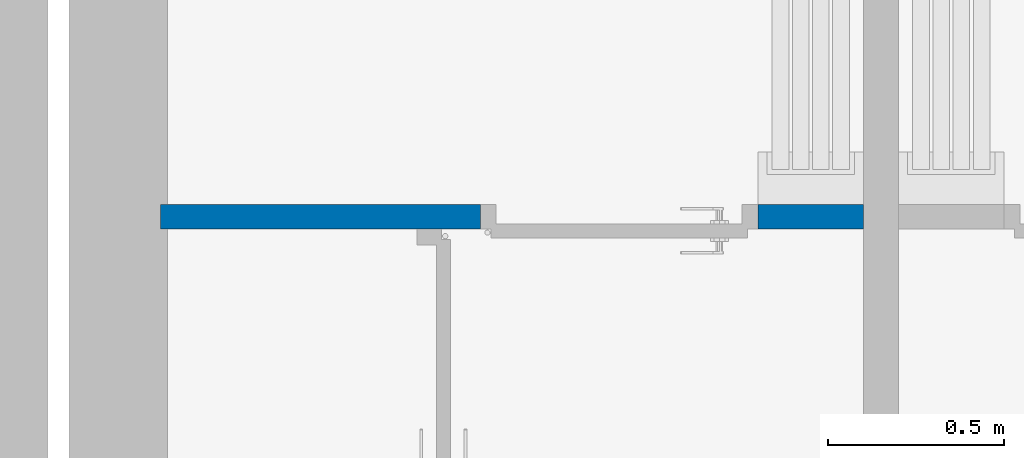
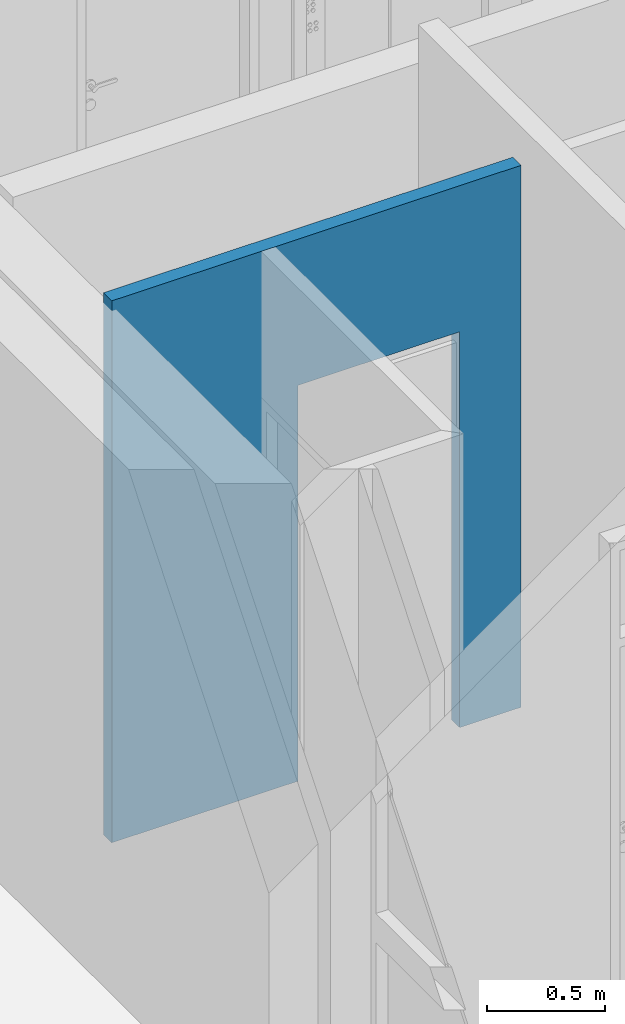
# One storey, part 6 of 45: 1 wall, 1 opening.
"""IFC2X3 building model written with IfcOpenShell, lengths in metres."""

from ifc_helpers import new_model, entity, si_unit, converted_unit, money_unit, direction, frame, origin_with_axes, place, context, subcontext, project, spatial, polyline, outline, extrude, material, layer, layer_set, layer_usage, type_object, element, save


model = new_model("IFC2X3")

# Units and contexts
model_context = context("Model", 3, precision=1e-05, world=origin_with_axes(), true_north=direction((0.0, 1.0)))
body_context = subcontext(model_context, "Body", "Model", "MODEL_VIEW")
ifc_project = project(units=[si_unit("LENGTHUNIT", "METRE"), si_unit("AREAUNIT", "SQUARE_METRE"), si_unit("VOLUMEUNIT", "CUBIC_METRE"), converted_unit("PLANEANGLEUNIT", "DEGREE", entity("IfcPlaneAngleMeasure", 0.0174532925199), si_unit("PLANEANGLEUNIT", "RADIAN"), dimensions=[0, 0, 0, 0, 0, 0, 0]), si_unit("SOLIDANGLEUNIT", "STERADIAN"), money_unit("EUR"), converted_unit("TIMEUNIT", "Year", entity("IfcTimeMeasure", 31556926.0), si_unit("TIMEUNIT", "SECOND"), dimensions=[0, 0, 0, 0, 0, 0, 0]), si_unit("MASSUNIT", "GRAM"), si_unit("THERMODYNAMICTEMPERATUREUNIT", "DEGREE_CELSIUS"), si_unit("LUMINOUSINTENSITYUNIT", "LUMEN")], contexts=[model_context])

# Site, building, storey
site_placement = place(None, origin_with_axes())
site = spatial("IfcSite", under=ifc_project, at=site_placement, Name="Site", CompositionType="ELEMENT")
building_placement = place(site_placement, origin_with_axes())
building = spatial("IfcBuilding", under=site, at=building_placement, Name="Bâtiment", CompositionType="ELEMENT")
storey_placement = place(building_placement, origin_with_axes())
storey = spatial("IfcBuildingStorey", under=building, at=storey_placement, Name="NIVEAU BAS GYMNASE", CompositionType="ELEMENT", Elevation=0.0)

# Wall, opening
ifc_material = material(Name="Hachure solide* 3962059836")
ifc_layer = layer(ifc_material, 0.07, ventilated="UNKNOWN")
ifc_layer_set = layer_set([ifc_layer], Name="Hachure solide* 3962059836 0.07")
ifc_layer_usage = layer_usage(ifc_layer_set, "AXIS2", "POSITIVE", -0.07)
wall_type = type_object("IfcWallType", Name="Hachure solide* 3962059836 70", PredefinedType="NOTDEFINED")
wall_placement = place(storey_placement, frame((45.738457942, 12.308815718, 0.0), z_axis=(0.0, 0.0, 1.0), x_axis=(1.0, 0.0, 0.0)))
wall = element("IfcWallStandardCase", 1, at=wall_placement, inside=storey, type_object=wall_type, material=ifc_layer_usage, Name="Mur-004", context=body_context, shape_type="SweptSolid", body=[
    extrude(outline(polyline([(0.0, -0.07), (2.0, -0.07), (2.0, 0.0), (0.0, 0.0), (0.0, -0.07)])), origin_with_axes(), (0.0, 0.0, 1.0), 2.8),
])
opening_placement = place(wall_placement, frame((1.30499999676, 0.0, -0.01), z_axis=(0.0, 0.0, 1.0), x_axis=(1.0, 0.0, 0.0)))
element("IfcOpeningElement", 2, at=opening_placement, cuts=wall, Name="Por-021", context=body_context, shape_type="SweptSolid", body=[
    extrude(outline(polyline([(-0.395, 0.0), (-0.395, -2.055), (0.395, -2.055), (0.395, 0.0), (-0.395, 0.0)])), frame((0.0, 0.0, 0.0), z_axis=(0.0, -1.0, 0.0), x_axis=(-1.0, 0.0, 0.0)), (0.0, 0.0, 1.0), 0.14),
])

save(model, "model.ifc")
